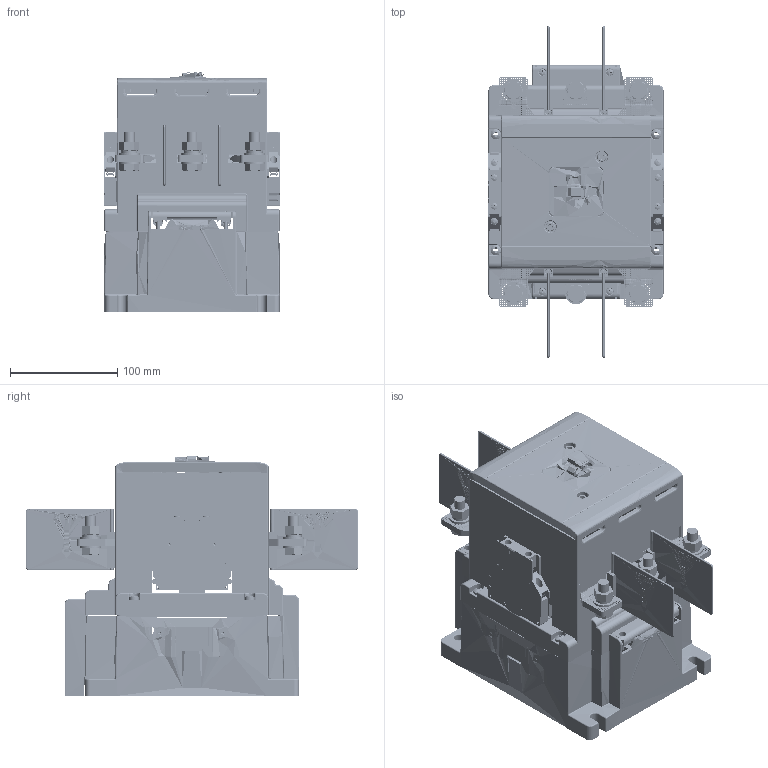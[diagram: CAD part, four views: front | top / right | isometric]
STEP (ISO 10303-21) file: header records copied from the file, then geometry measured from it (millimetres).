
FILE_DESCRIPTION (( 'STEP AP214' ), '1' );
FILE_NAME ('TGC1-500~630A.STEP', '2025-12-22T08:58:12', ( '' ), ( '' ), 'SwSTEP 2.0', 'SolidWorks 2024', '' );
FILE_SCHEMA (( 'AUTOMOTIVE_DESIGN' ));
Length unit declared in the file: millimetre
Products named in the file (559): 2TZD_400_6028_SW0001_75_1.stp; 2TZD_400_6028_SW0001_198_1.stp; 2TZD_400_6028_SW0001_179_1.stp; 2TZD_400_6028_SW0001_426_1.stp; 2TZD_400_6028_SW0001_530_1.stp; 2TZD_400_6028_SW0001_164_1.stp; 2TZD_400_6028_SW0001_265_1.stp; 2TZD_400_6028_SW0001_326_1.stp; 2TZD_400_6028_SW0001_420_1.stp; 2TZD_400_6028_SW0001_493_1.stp; 2TZD_400_6028_SW0001_131_1.stp; 2TZD_400_6028_SW0001_204_1.stp; 2TZD_400_6028_SW0001_274_1.stp; 2TZD_400_6028_SW0001_145_1.stp; 2TZD_400_6028_SW0001_538_1.stp; 2TZD_400_6028_SW0001_165_1.stp; 2TZD_400_6028_SW0001_238_1.stp; 2TZD_400_6028_SW0001_69_1.stp; 2TZD_400_6028_SW0001_313_1.stp; 2TZD_400_6028_SW0001_375_1.stp; 2TZD_400_6028_SW0001_29_1.stp; 2TZD_400_6028_SW0001_528_1.stp; 2TZD_400_6028_SW0001_91_1.stp; 2TZD_400_6028_SW0001_193_1.stp; 2TZD_400_6028_SW0001_446_1.stp; 2TZD_400_6028_SW0001_502_1.stp; 2TZD_400_6028_SW0001_65_1.stp; 2TZD_400_6028_SW0001_245_1.stp; 2TZD_400_6028_SW0001_315_1.stp; 2TZD_400_6028_SW0001_419_1.stp; 2TZD_400_6028_SW0001_124_1.stp; 2TZD_400_6028_SW0001_272_1.stp; 2TZD_400_6028_SW0001_537_1.stp; 2TZD_400_6028_SW0001_163_1.stp; 2TZD_400_6028_SW0001_236_1.stp; 2TZD_400_6028_SW0001_347_1.stp; 2TZD_400_6028_SW0001_399_1.stp; 2TZD_400_6028_SW0001_521_1.stp; 2TZD_400_6028_SW0001_312_1.stp; 2TZD_400_6028_SW0001_377_1.stp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
Assembly tree (558 placements, depth 3):
  TGC1-500~630A
    TGC1-500~630A.stp
      2TZD_400_6028_SW0001_1_1.stp
      2TZD_400_6028_SW0001_2_1.stp
      2TZD_400_6028_SW0001_3_1.stp
      2TZD_400_6028_SW0001_4_1.stp
      2TZD_400_6028_SW0001_5_1.stp
      2TZD_400_6028_SW0001_6_1.stp
      2TZD_400_6028_SW0001_7_1.stp
      2TZD_400_6028_SW0001_8_1.stp
      2TZD_400_6028_SW0001_9_1.stp
      2TZD_400_6028_SW0001_10_1.stp
      2TZD_400_6028_SW0001_11_1.stp
      2TZD_400_6028_SW0001_12_1.stp
      2TZD_400_6028_SW0001_13_1.stp
      2TZD_400_6028_SW0001_14_1.stp
      2TZD_400_6028_SW0001_15_1.stp
      2TZD_400_6028_SW0001_16_1.stp
      2TZD_400_6028_SW0001_17_1.stp
      2TZD_400_6028_SW0001_18_1.stp
      2TZD_400_6028_SW0001_19_1.stp
      2TZD_400_6028_SW0001_20_1.stp
      2TZD_400_6028_SW0001_21_1.stp
      2TZD_400_6028_SW0001_22_1.stp
      2TZD_400_6028_SW0001_23_1.stp
      2TZD_400_6028_SW0001_24_1.stp
      2TZD_400_6028_SW0001_25_1.stp
      2TZD_400_6028_SW0001_26_1.stp
      2TZD_400_6028_SW0001_27_1.stp
      2TZD_400_6028_SW0001_28_1.stp
      2TZD_400_6028_SW0001_29_1.stp
      2TZD_400_6028_SW0001_30_1.stp
      2TZD_400_6028_SW0001_31_1.stp
      2TZD_400_6028_SW0001_32_1.stp
      2TZD_400_6028_SW0001_33_1.stp
      2TZD_400_6028_SW0001_34_1.stp
      2TZD_400_6028_SW0001_35_1.stp
      2TZD_400_6028_SW0001_36_1.stp
      2TZD_400_6028_SW0001_37_1.stp
      2TZD_400_6028_SW0001_38_1.stp
      2TZD_400_6028_SW0001_39_1.stp
      2TZD_400_6028_SW0001_40_1.stp
      2TZD_400_6028_SW0001_41_1.stp
      2TZD_400_6028_SW0001_42_1.stp
      2TZD_400_6028_SW0001_43_1.stp
      2TZD_400_6028_SW0001_44_1.stp
      2TZD_400_6028_SW0001_45_1.stp
      2TZD_400_6028_SW0001_46_1.stp
      2TZD_400_6028_SW0001_47_1.stp
      2TZD_400_6028_SW0001_48_1.stp
      2TZD_400_6028_SW0001_49_1.stp
      2TZD_400_6028_SW0001_50_1.stp
      2TZD_400_6028_SW0001_51_1.stp
      2TZD_400_6028_SW0001_52_1.stp
      2TZD_400_6028_SW0001_53_1.stp
      2TZD_400_6028_SW0001_54_1.stp
      2TZD_400_6028_SW0001_55_1.stp
      2TZD_400_6028_SW0001_56_1.stp
      2TZD_400_6028_SW0001_57_1.stp
      2TZD_400_6028_SW0001_58_1.stp
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Bounding box: 164.4 x 310 x 224.8 mm (x, y, z)
Surface area: 830032.8 mm2 (no closed solid volume)
Topology: 0 solids, 559 shells, 6948 faces, 34074 edges, 27678 vertices
Faces by surface type: plane 4752, cylinder 1546, cone 267, torus 171, bspline 124, sphere 88
Full cylindrical faces by diameter (mm): 3.5 x2
Entity records: 432348 total; most frequent: CARTESIAN_POINT 218151, ORIENTED_EDGE 49777, EDGE_CURVE 34041, B_SPLINE_CURVE_WITH_KNOTS 33875, VERTEX_POINT 27680, DIRECTION 14896, EDGE_LOOP 10101, AXIS2_PLACEMENT_3D 7406
